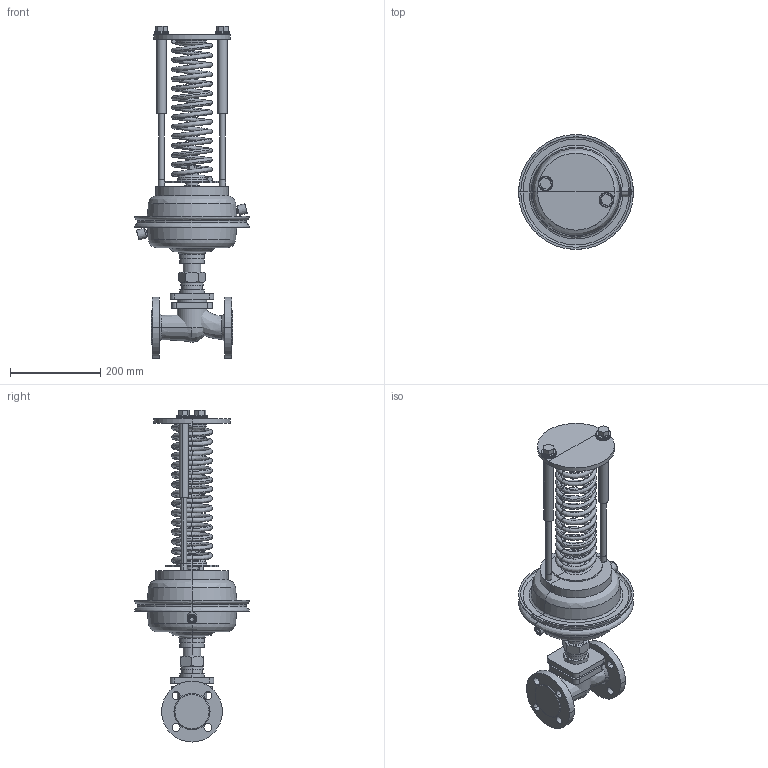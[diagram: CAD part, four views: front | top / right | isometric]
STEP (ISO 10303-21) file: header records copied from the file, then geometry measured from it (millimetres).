
FILE_DESCRIPTION(/* description */ (''),/* implementation_level */ '2;1');
FILE_NAME(/* name */ 'ETM_Регулятордавления_УРРД_НЗ_РД_DN32',/* time_stamp */ '2026-04-18T14:59:51+03:00',/* author */ (''),/* organization */ (''),/* preprocessor_version */ 'ST-DEVELOPER v20',/* originating_system */ '',/* authorisation */ '');
FILE_SCHEMA (('AP242_MANAGED_MODEL_BASED_3D_ENGINEERING_MIM_LF { 1 0 10303 442 1 1 4 }'));
Length unit declared in the file: millimetre
Products named in the file (13): TopLevelAssembly; Выдавливание; Переход; Выдавливание_
1; Переход_1; Переход_2; Переход_3; Выдавливание_
2; Объемная геометрия 
присоединена; Выдавливание_
3; Объемная геометрия 
присоединена_1; Выдавливание_
4; Пружина желтая
Assembly tree (12 placements, depth 2):
  TopLevelAssembly
    Выдавливание
    Переход
    Выдавливание_
1
    Переход_1
    Переход_2
    Переход_3
    Выдавливание_
2
    Объемная геометрия 
присоединена
    Выдавливание_
3
    Объемная геометрия 
присоединена_1
    Выдавливание_
4
    Пружина желтая
Bounding box: 255.07 x 255.07 x 736.51 mm (x, y, z)
Volume: 6304017.1 mm3; surface area: 716790 mm2
Topology: 33 solids, 33 shells, 518 faces, 1066 edges, 552 vertices
Faces by surface type: plane 191, bspline 191, cylinder 126, cone 10
Entity records: 16909 total; most frequent: CARTESIAN_POINT 5879, DIRECTION 2328, ORIENTED_EDGE 2040, EDGE_CURVE 1020, AXIS2_PLACEMENT_3D 980, CIRCLE 627, VERTEX_POINT 552, EDGE_LOOP 538
